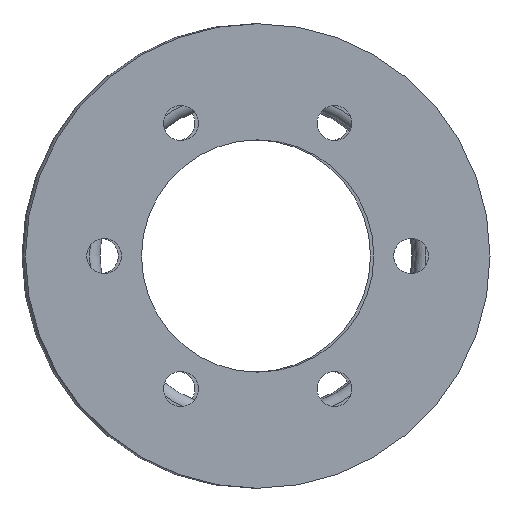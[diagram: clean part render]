
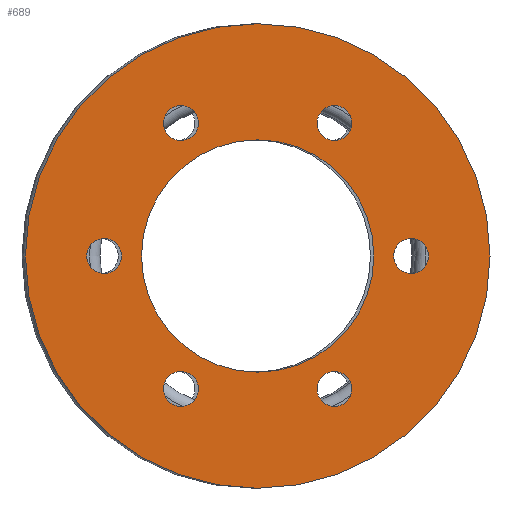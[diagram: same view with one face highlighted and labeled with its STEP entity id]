
A CAD part, left-side view. The second image highlights one B-rep face of the part: STEP entity #689.
In plain terms, the highlighted planar face has unit normal (-1, 0, 0).
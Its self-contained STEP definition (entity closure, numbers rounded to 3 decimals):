
#689 = ADVANCED_FACE( 'NONE', ( #1028, #1029, #1030, #1031, #1032, #1033, #1034, #1035 ), #1036, .F. );
#1028 = FACE_OUTER_BOUND( '', #1178, .T. );
#1029 = FACE_BOUND( '', #1179, .T. );
#1030 = FACE_BOUND( '', #1180, .T. );
#1031 = FACE_BOUND( '', #1181, .T. );
#1032 = FACE_BOUND( '', #1182, .T. );
#1033 = FACE_BOUND( '', #1183, .T. );
#1034 = FACE_BOUND( '', #1184, .T. );
#1035 = FACE_BOUND( '', #1185, .T. );
#1036 = PLANE( '', #1186 );
#1178 = EDGE_LOOP( '', ( #1386 ) );
#1179 = EDGE_LOOP( '', ( #1387 ) );
#1180 = EDGE_LOOP( '', ( #1388 ) );
#1181 = EDGE_LOOP( '', ( #1389 ) );
#1182 = EDGE_LOOP( '', ( #1390 ) );
#1183 = EDGE_LOOP( '', ( #1391 ) );
#1184 = EDGE_LOOP( '', ( #1392 ) );
#1185 = EDGE_LOOP( '', ( #1393 ) );
#1186 = AXIS2_PLACEMENT_3D( '', #1394, #1395, #1396 );
#1386 = ORIENTED_EDGE( '', *, *, #1604, .T. );
#1387 = ORIENTED_EDGE( '', *, *, #1605, .F. );
#1388 = ORIENTED_EDGE( '', *, *, #1606, .F. );
#1389 = ORIENTED_EDGE( '', *, *, #1607, .F. );
#1390 = ORIENTED_EDGE( '', *, *, #1608, .F. );
#1391 = ORIENTED_EDGE( '', *, *, #1609, .F. );
#1392 = ORIENTED_EDGE( '', *, *, #1602, .F. );
#1393 = ORIENTED_EDGE( '', *, *, #1600, .F. );
#1394 = CARTESIAN_POINT( '', ( 0., 14., 0. ) );
#1395 = DIRECTION( '', ( 1., 0., 0. ) );
#1396 = DIRECTION( '', ( 0., 1., 0. ) );
#1600 = EDGE_CURVE( 'NONE', #1778, #1778, #1779, .T. );
#1602 = EDGE_CURVE( 'NONE', #1782, #1782, #1783, .T. );
#1604 = EDGE_CURVE( 'NONE', #1786, #1786, #1787, .T. );
#1605 = EDGE_CURVE( 'NONE', #1788, #1788, #1789, .T. );
#1606 = EDGE_CURVE( 'NONE', #1790, #1790, #1791, .T. );
#1607 = EDGE_CURVE( 'NONE', #1792, #1792, #1793, .T. );
#1608 = EDGE_CURVE( 'NONE', #1794, #1794, #1795, .T. );
#1609 = EDGE_CURVE( 'NONE', #1796, #1796, #1797, .T. );
#1778 = VERTEX_POINT( '', #1810 );
#1779 = CIRCLE( '', #1811, 2.1 );
#1782 = VERTEX_POINT( '', #1814 );
#1783 = CIRCLE( '', #1815, 2.1 );
#1786 = VERTEX_POINT( '', #1818 );
#1787 = CIRCLE( '', #1819, 28. );
#1788 = VERTEX_POINT( '', #1820 );
#1789 = CIRCLE( '', #1821, 2.1 );
#1790 = VERTEX_POINT( '', #1822 );
#1791 = CIRCLE( '', #1823, 2.1 );
#1792 = VERTEX_POINT( '', #1824 );
#1793 = CIRCLE( '', #1825, 2.1 );
#1794 = VERTEX_POINT( '', #1826 );
#1795 = CIRCLE( '', #1827, 2.1 );
#1796 = VERTEX_POINT( '', #1828 );
#1797 = CIRCLE( '', #1829, 14. );
#1810 = CARTESIAN_POINT( '', ( 0., -9.25, 18.121 ) );
#1811 = AXIS2_PLACEMENT_3D( '', #1842, #1843, #1844 );
#1814 = CARTESIAN_POINT( '', ( 0., -9.25, -13.921 ) );
#1815 = AXIS2_PLACEMENT_3D( '', #1848, #1849, #1850 );
#1818 = CARTESIAN_POINT( '', ( 0., 0., 28. ) );
#1819 = AXIS2_PLACEMENT_3D( '', #1854, #1855, #1856 );
#1820 = CARTESIAN_POINT( '', ( 0., 9.25, 18.121 ) );
#1821 = AXIS2_PLACEMENT_3D( '', #1857, #1858, #1859 );
#1822 = CARTESIAN_POINT( '', ( 0., -18.5, 2.1 ) );
#1823 = AXIS2_PLACEMENT_3D( '', #1860, #1861, #1862 );
#1824 = CARTESIAN_POINT( '', ( 0., 9.25, -13.921 ) );
#1825 = AXIS2_PLACEMENT_3D( '', #1863, #1864, #1865 );
#1826 = CARTESIAN_POINT( '', ( 0., 18.5, 2.1 ) );
#1827 = AXIS2_PLACEMENT_3D( '', #1866, #1867, #1868 );
#1828 = CARTESIAN_POINT( '', ( 0., 0., 14. ) );
#1829 = AXIS2_PLACEMENT_3D( '', #1869, #1870, #1871 );
#1842 = CARTESIAN_POINT( '', ( 0., -9.25, 16.021 ) );
#1843 = DIRECTION( '', ( -1., 0., 0. ) );
#1844 = DIRECTION( '', ( 0., 0., 1. ) );
#1848 = CARTESIAN_POINT( '', ( 0., -9.25, -16.021 ) );
#1849 = DIRECTION( '', ( -1., 0., 0. ) );
#1850 = DIRECTION( '', ( 0., 0., 1. ) );
#1854 = CARTESIAN_POINT( '', ( 0., 0., 0. ) );
#1855 = DIRECTION( '', ( -1., 0., 0. ) );
#1856 = DIRECTION( '', ( 0., 0., 1. ) );
#1857 = CARTESIAN_POINT( '', ( 0., 9.25, 16.021 ) );
#1858 = DIRECTION( '', ( -1., 0., 0. ) );
#1859 = DIRECTION( '', ( 0., 0., 1. ) );
#1860 = CARTESIAN_POINT( '', ( 0., -18.5, 0. ) );
#1861 = DIRECTION( '', ( -1., 0., 0. ) );
#1862 = DIRECTION( '', ( 0., 0., 1. ) );
#1863 = CARTESIAN_POINT( '', ( 0., 9.25, -16.021 ) );
#1864 = DIRECTION( '', ( -1., 0., 0. ) );
#1865 = DIRECTION( '', ( 0., 0., 1. ) );
#1866 = CARTESIAN_POINT( '', ( 0., 18.5, 0. ) );
#1867 = DIRECTION( '', ( -1., 0., 0. ) );
#1868 = DIRECTION( '', ( 0., 0., 1. ) );
#1869 = CARTESIAN_POINT( '', ( 0., 0., 0. ) );
#1870 = DIRECTION( '', ( -1., 0., 0. ) );
#1871 = DIRECTION( '', ( 0., 0., 1. ) );
